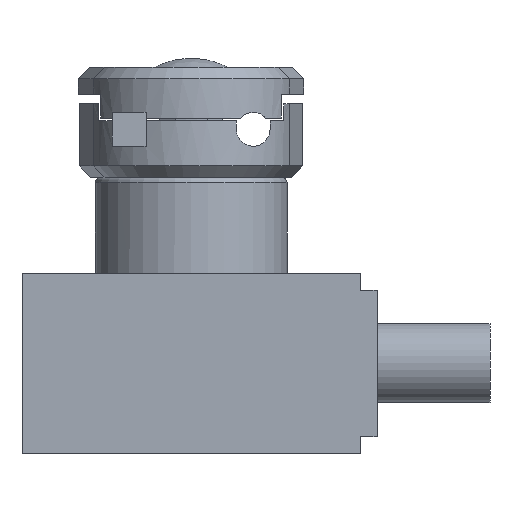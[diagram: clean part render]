
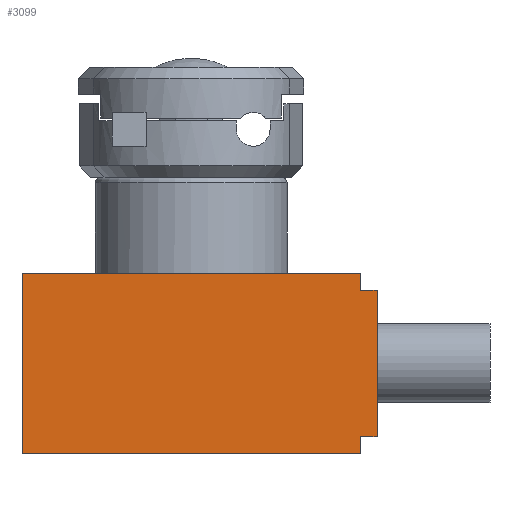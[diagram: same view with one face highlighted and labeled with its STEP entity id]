
A CAD part, front view. The second image highlights one B-rep face of the part: STEP entity #3099.
In plain terms, the highlighted planar face has unit normal (0, -1, 0) as drawn and (0, 0, -1) by its records, which use the part's own axes.
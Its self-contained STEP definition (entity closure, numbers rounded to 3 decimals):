
#413=FACE_OUTER_BOUND('',#611,.T.);
#611=EDGE_LOOP('',(#2795,#2796,#2797,#2798,#2799,#2800,#2801,#2802));
#859=LINE('',#4915,#1185);
#863=LINE('',#4926,#1189);
#871=LINE('',#4941,#1197);
#903=LINE('',#5044,#1229);
#919=LINE('',#5089,#1245);
#935=LINE('',#5122,#1261);
#938=LINE('',#5127,#1264);
#939=LINE('',#5129,#1265);
#1185=VECTOR('',#4005,13.);
#1189=VECTOR('',#4013,1.5);
#1197=VECTOR('',#4021,1.5);
#1229=VECTOR('',#4125,30.);
#1245=VECTOR('',#4169,16.);
#1261=VECTOR('',#4207,30.);
#1264=VECTOR('',#4214,1.5);
#1265=VECTOR('',#4217,1.5);
#1478=VERTEX_POINT('',#4912);
#1479=VERTEX_POINT('',#4914);
#1481=VERTEX_POINT('',#4919);
#1483=VERTEX_POINT('',#4923);
#1484=VERTEX_POINT('',#4925);
#1491=VERTEX_POINT('',#4939);
#1526=VERTEX_POINT('',#5042);
#1541=VERTEX_POINT('',#5087);
#1862=EDGE_CURVE('',#1479,#1478,#859,.T.);
#1867=EDGE_CURVE('',#1484,#1483,#863,.T.);
#1875=EDGE_CURVE('',#1481,#1491,#871,.T.);
#1924=EDGE_CURVE('',#1491,#1526,#903,.T.);
#1946=EDGE_CURVE('',#1541,#1526,#919,.T.);
#1963=EDGE_CURVE('',#1541,#1484,#935,.T.);
#1966=EDGE_CURVE('',#1483,#1479,#938,.T.);
#1967=EDGE_CURVE('',#1481,#1478,#939,.T.);
#2795=ORIENTED_EDGE('',*,*,#1862,.T.);
#2796=ORIENTED_EDGE('',*,*,#1967,.F.);
#2797=ORIENTED_EDGE('',*,*,#1875,.T.);
#2798=ORIENTED_EDGE('',*,*,#1924,.T.);
#2799=ORIENTED_EDGE('',*,*,#1946,.F.);
#2800=ORIENTED_EDGE('',*,*,#1963,.T.);
#2801=ORIENTED_EDGE('',*,*,#1867,.T.);
#2802=ORIENTED_EDGE('',*,*,#1966,.T.);
#2930=PLANE('',#3365);
#3099=ADVANCED_FACE('',(#413),#2930,.T.);
#3365=AXIS2_PLACEMENT_3D('',#5128,#4215,#4216);
#4005=DIRECTION('',(0.,-1.,0.));
#4013=DIRECTION('',(0.,-1.,0.));
#4021=DIRECTION('',(0.,-1.,0.));
#4125=DIRECTION('',(-1.,0.,0.));
#4169=DIRECTION('',(0.,-1.,0.));
#4207=DIRECTION('',(1.,0.,0.));
#4214=DIRECTION('',(1.,0.,0.));
#4215=DIRECTION('center_axis',(0.,0.,-1.));
#4216=DIRECTION('ref_axis',(-1.,0.,0.));
#4217=DIRECTION('',(1.,0.,0.));
#4912=CARTESIAN_POINT('',(16.5,-14.5,-40.));
#4914=CARTESIAN_POINT('',(16.5,-1.5,-40.));
#4915=CARTESIAN_POINT('',(16.5,-1.5,-40.));
#4919=CARTESIAN_POINT('',(15.,-14.5,-40.));
#4923=CARTESIAN_POINT('',(15.,-1.5,-40.));
#4925=CARTESIAN_POINT('',(15.,0.,-40.));
#4926=CARTESIAN_POINT('',(15.,0.,-40.));
#4939=CARTESIAN_POINT('',(15.,-16.,-40.));
#4941=CARTESIAN_POINT('',(15.,-14.5,-40.));
#5042=CARTESIAN_POINT('',(-15.,-16.,-40.));
#5044=CARTESIAN_POINT('',(15.,-16.,-40.));
#5087=CARTESIAN_POINT('',(-15.,0.,-40.));
#5089=CARTESIAN_POINT('',(-15.,0.,-40.));
#5122=CARTESIAN_POINT('',(-15.,0.,-40.));
#5127=CARTESIAN_POINT('',(15.,-1.5,-40.));
#5128=CARTESIAN_POINT('Origin',(15.,-1.5,-40.));
#5129=CARTESIAN_POINT('',(15.,-14.5,-40.));
